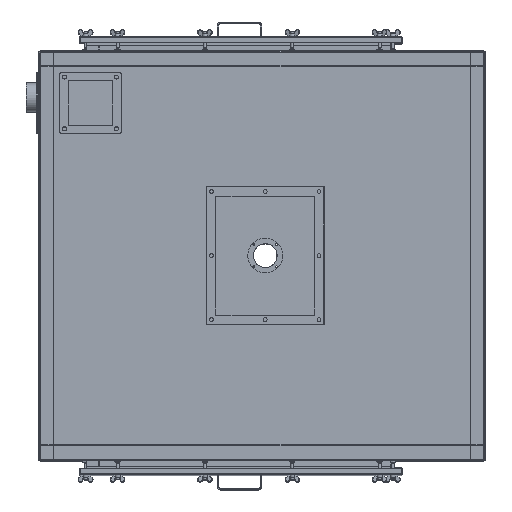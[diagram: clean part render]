
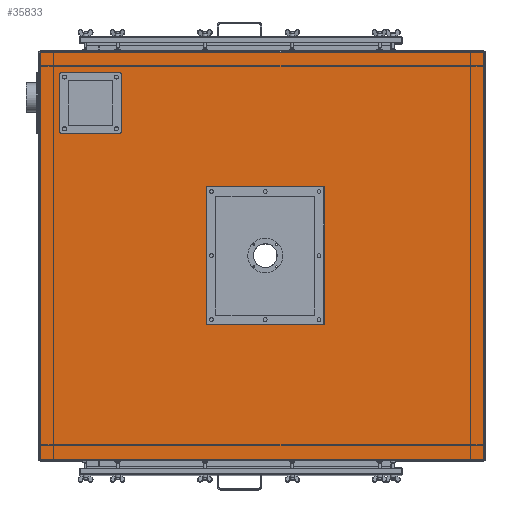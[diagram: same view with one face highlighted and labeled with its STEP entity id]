
A CAD part, top view. The second image highlights one B-rep face of the part: STEP entity #35833.
In plain terms, the highlighted planar face has unit normal (0, 0, 1).
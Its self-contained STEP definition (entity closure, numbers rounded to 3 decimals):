
#1221=PLANE('',#38060);
#2697=LINE('',#51863,#5613);
#2700=LINE('',#51871,#5616);
#2705=LINE('',#51882,#5621);
#2706=LINE('',#51886,#5622);
#2707=LINE('',#51890,#5623);
#2708=LINE('',#51892,#5624);
#2709=LINE('',#51894,#5625);
#2710=LINE('',#51895,#5626);
#2711=LINE('',#51898,#5627);
#2712=LINE('',#51900,#5628);
#2713=LINE('',#51902,#5629);
#2714=LINE('',#51903,#5630);
#5613=VECTOR('',#41880,200.);
#5616=VECTOR('',#41889,200.);
#5621=VECTOR('',#41900,200.);
#5622=VECTOR('',#41907,200.);
#5623=VECTOR('',#41910,1524.);
#5624=VECTOR('',#41911,1398.);
#5625=VECTOR('',#41912,1524.);
#5626=VECTOR('',#41913,1398.);
#5627=VECTOR('',#41914,402.);
#5628=VECTOR('',#41915,472.);
#5629=VECTOR('',#41916,402.);
#5630=VECTOR('',#41917,472.);
#8429=FACE_BOUND('',#11272,.T.);
#8430=FACE_BOUND('',#11273,.T.);
#9097=FACE_OUTER_BOUND('',#11271,.T.);
#11271=EDGE_LOOP('',(#23746,#23747,#23748,#23749));
#11272=EDGE_LOOP('',(#23750,#23751,#23752,#23753,#23754,#23755,#23756,#23757));
#11273=EDGE_LOOP('',(#23758,#23759,#23760,#23761));
#13987=CIRCLE('',#38049,5.);
#13988=CIRCLE('',#38052,5.);
#13989=CIRCLE('',#38055,5.);
#13990=CIRCLE('',#38058,5.);
#15323=VERTEX_POINT('',#51856);
#15324=VERTEX_POINT('',#51857);
#15325=VERTEX_POINT('',#51862);
#15326=VERTEX_POINT('',#51866);
#15327=VERTEX_POINT('',#51870);
#15328=VERTEX_POINT('',#51874);
#15329=VERTEX_POINT('',#51875);
#15330=VERTEX_POINT('',#51880);
#15331=VERTEX_POINT('',#51888);
#15332=VERTEX_POINT('',#51889);
#15333=VERTEX_POINT('',#51891);
#15334=VERTEX_POINT('',#51893);
#15335=VERTEX_POINT('',#51896);
#15336=VERTEX_POINT('',#51897);
#15337=VERTEX_POINT('',#51899);
#15338=VERTEX_POINT('',#51901);
#18615=EDGE_CURVE('',#15323,#15324,#13987,.T.);
#18618=EDGE_CURVE('',#15325,#15323,#2697,.T.);
#18620=EDGE_CURVE('',#15326,#15325,#13988,.T.);
#18622=EDGE_CURVE('',#15327,#15326,#2700,.T.);
#18624=EDGE_CURVE('',#15328,#15329,#13989,.T.);
#18628=EDGE_CURVE('',#15329,#15330,#2705,.T.);
#18629=EDGE_CURVE('',#15330,#15327,#13990,.T.);
#18630=EDGE_CURVE('',#15324,#15328,#2706,.T.);
#18631=EDGE_CURVE('',#15331,#15332,#2707,.T.);
#18632=EDGE_CURVE('',#15332,#15333,#2708,.T.);
#18633=EDGE_CURVE('',#15333,#15334,#2709,.T.);
#18634=EDGE_CURVE('',#15334,#15331,#2710,.T.);
#18635=EDGE_CURVE('',#15335,#15336,#2711,.T.);
#18636=EDGE_CURVE('',#15336,#15337,#2712,.T.);
#18637=EDGE_CURVE('',#15337,#15338,#2713,.T.);
#18638=EDGE_CURVE('',#15338,#15335,#2714,.T.);
#23746=ORIENTED_EDGE('',*,*,#18631,.T.);
#23747=ORIENTED_EDGE('',*,*,#18632,.T.);
#23748=ORIENTED_EDGE('',*,*,#18633,.T.);
#23749=ORIENTED_EDGE('',*,*,#18634,.T.);
#23750=ORIENTED_EDGE('',*,*,#18624,.T.);
#23751=ORIENTED_EDGE('',*,*,#18628,.T.);
#23752=ORIENTED_EDGE('',*,*,#18629,.T.);
#23753=ORIENTED_EDGE('',*,*,#18622,.T.);
#23754=ORIENTED_EDGE('',*,*,#18620,.T.);
#23755=ORIENTED_EDGE('',*,*,#18618,.T.);
#23756=ORIENTED_EDGE('',*,*,#18615,.T.);
#23757=ORIENTED_EDGE('',*,*,#18630,.T.);
#23758=ORIENTED_EDGE('',*,*,#18635,.T.);
#23759=ORIENTED_EDGE('',*,*,#18636,.T.);
#23760=ORIENTED_EDGE('',*,*,#18637,.T.);
#23761=ORIENTED_EDGE('',*,*,#18638,.T.);
#35833=ADVANCED_FACE('',(#9097,#8429,#8430),#1221,.F.);
#38049=AXIS2_PLACEMENT_3D('',#51858,#41874,#41875);
#38052=AXIS2_PLACEMENT_3D('',#51867,#41884,#41885);
#38055=AXIS2_PLACEMENT_3D('',#51876,#41893,#41894);
#38058=AXIS2_PLACEMENT_3D('',#51884,#41903,#41904);
#38060=AXIS2_PLACEMENT_3D('',#51887,#41908,#41909);
#41874=DIRECTION('center_axis',(0.,0.,
-1.));
#41875=DIRECTION('ref_axis',(-0.707,-0.707,0.));
#41880=DIRECTION('',(-1.,0.,0.));
#41884=DIRECTION('center_axis',(0.,0.,
-1.));
#41885=DIRECTION('ref_axis',(0.707,-0.707,0.));
#41889=DIRECTION('',(0.,-1.,0.));
#41893=DIRECTION('center_axis',(0.,0.,
-1.));
#41894=DIRECTION('ref_axis',(-0.707,0.707,0.));
#41900=DIRECTION('',(1.,0.,0.));
#41903=DIRECTION('center_axis',(0.,0.,
-1.));
#41904=DIRECTION('ref_axis',(0.707,0.707,0.));
#41907=DIRECTION('',(0.,1.,0.));
#41908=DIRECTION('center_axis',(0.,0.,
-1.));
#41909=DIRECTION('ref_axis',(-1.,0.,0.));
#41910=DIRECTION('',(-1.,0.,0.));
#41911=DIRECTION('',(0.,-1.,0.));
#41912=DIRECTION('',(1.,0.,0.));
#41913=DIRECTION('',(0.,1.,0.));
#41914=DIRECTION('',(-1.,0.,0.));
#41915=DIRECTION('',(0.,1.,0.));
#41916=DIRECTION('',(1.,0.,0.));
#41917=DIRECTION('',(0.,-1.,0.));
#51856=CARTESIAN_POINT('',(-734.608,477.918,957.64));
#51857=CARTESIAN_POINT('',(-739.608,482.918,957.64));
#51858=CARTESIAN_POINT('Origin',(-734.608,482.918,957.64));
#51862=CARTESIAN_POINT('',(-534.608,477.918,957.64));
#51863=CARTESIAN_POINT('',(-392.508,477.918,957.64));
#51866=CARTESIAN_POINT('',(-529.608,482.918,957.64));
#51867=CARTESIAN_POINT('Origin',(-534.608,482.918,957.64));
#51870=CARTESIAN_POINT('',(-529.608,682.918,957.64));
#51871=CARTESIAN_POINT('',(-529.608,268.318,957.64));
#51874=CARTESIAN_POINT('',(-739.608,682.918,957.64));
#51875=CARTESIAN_POINT('',(-734.608,687.918,957.64));
#51876=CARTESIAN_POINT('Origin',(-734.608,682.918,957.64));
#51880=CARTESIAN_POINT('',(-534.608,687.918,957.64));
#51882=CARTESIAN_POINT('',(-287.508,687.918,957.64));
#51884=CARTESIAN_POINT('Origin',(-534.608,682.918,957.64));
#51886=CARTESIAN_POINT('',(-739.608,373.318,957.64));
#51887=CARTESIAN_POINT('Origin',(-45.408,58.718,957.64));
#51888=CARTESIAN_POINT('',(716.592,757.718,957.64));
#51889=CARTESIAN_POINT('',(-807.408,757.718,957.64));
#51890=CARTESIAN_POINT('',(335.592,757.718,957.64));
#51891=CARTESIAN_POINT('',(-807.408,-640.282,957.64));
#51892=CARTESIAN_POINT('',(-807.408,759.718,957.64));
#51893=CARTESIAN_POINT('',(716.592,-640.282,957.64));
#51894=CARTESIAN_POINT('',(-426.408,-640.282,957.64));
#51895=CARTESIAN_POINT('',(716.592,-642.282,957.64));
#51896=CARTESIAN_POINT('',(166.592,-177.282,957.64));
#51897=CARTESIAN_POINT('',(-235.408,-177.282,957.64));
#51898=CARTESIAN_POINT('',(-140.408,-177.282,957.64));
#51899=CARTESIAN_POINT('',(-235.408,294.718,957.64));
#51900=CARTESIAN_POINT('',(-235.408,176.718,957.64));
#51901=CARTESIAN_POINT('',(166.592,294.718,957.64));
#51902=CARTESIAN_POINT('',(60.592,294.718,957.64));
#51903=CARTESIAN_POINT('',(166.592,-59.282,957.64));
